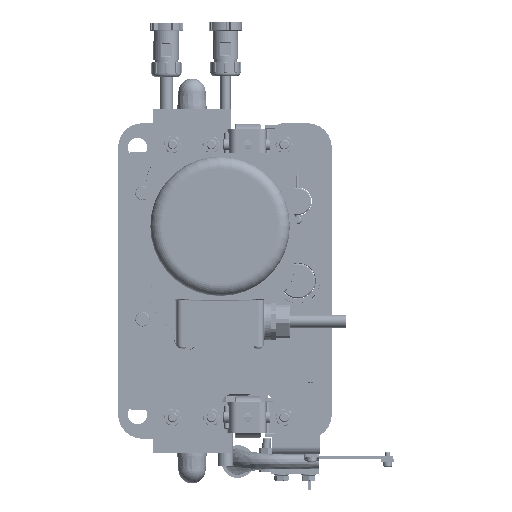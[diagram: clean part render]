
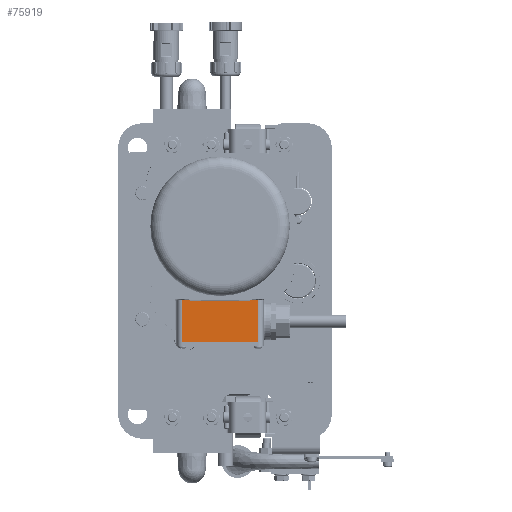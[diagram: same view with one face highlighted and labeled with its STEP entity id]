
A CAD part, left-side view. The second image highlights one B-rep face of the part: STEP entity #75919.
In plain terms, the highlighted planar face has unit normal (-1, 0, 0) as drawn and (0, 0, 1) by its records, which use the part's own axes.
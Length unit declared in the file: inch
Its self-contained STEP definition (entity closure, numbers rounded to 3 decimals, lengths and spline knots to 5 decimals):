
#3632 = CARTESIAN_POINT ( 'NONE',  ( 1.77165, 4.68504, 4.17323 ) ) ;
#5591 = VERTEX_POINT ( 'NONE', #49862 ) ;
#11944 = ORIENTED_EDGE ( 'NONE', *, *, #87141, .T. ) ;
#14134 = CARTESIAN_POINT ( 'NONE',  ( 1.77165, 4.68504, 4.17323 ) ) ;
#16587 = DIRECTION ( 'NONE',  ( 0., -1., 0. ) ) ;
#21207 = EDGE_CURVE ( 'NONE', #175193, #172982, #49257, .T. ) ;
#29665 = DIRECTION ( 'NONE',  ( 0., 0., -1. ) ) ;
#31357 = CARTESIAN_POINT ( 'NONE',  ( -1.53543, 3.0047, 4.17323 ) ) ;
#37085 = CARTESIAN_POINT ( 'NONE',  ( 1.53543, 4.68504, 4.17323 ) ) ;
#44064 = VECTOR ( 'NONE', #184271, 39.37008 ) ;
#46141 = AXIS2_PLACEMENT_3D ( 'NONE', #14134, #29665, #165643 ) ;
#48520 = DIRECTION ( 'NONE',  ( 1., -0.017, 0. ) ) ;
#49257 = LINE ( 'NONE', #3632, #138266 ) ;
#49862 = CARTESIAN_POINT ( 'NONE',  ( 1.53543, 3.0047, 4.17323 ) ) ;
#51873 = EDGE_CURVE ( 'NONE', #71904, #98848, #166829, .T. ) ;
#53510 = ORIENTED_EDGE ( 'NONE', *, *, #51873, .T. ) ;
#55351 = ORIENTED_EDGE ( 'NONE', *, *, #21207, .F. ) ;
#59427 = CARTESIAN_POINT ( 'NONE',  ( 0., 3.0315, 4.17323 ) ) ;
#62599 = ORIENTED_EDGE ( 'NONE', *, *, #73960, .T. ) ;
#71904 = VERTEX_POINT ( 'NONE', #31357 ) ;
#73960 = EDGE_CURVE ( 'NONE', #175193, #71904, #146807, .T. ) ;
#74307 = FACE_OUTER_BOUND ( 'NONE', #135105, .T. ) ;
#75919 = ADVANCED_FACE ( 'NONE', ( #74307 ), #89872, .F. ) ;
#78225 = LINE ( 'NONE', #180275, #102384 ) ;
#84934 = CARTESIAN_POINT ( 'NONE',  ( -1.53543, 4.68504, 4.17323 ) ) ;
#87141 = EDGE_CURVE ( 'NONE', #98848, #5591, #179707, .T. ) ;
#89872 = PLANE ( 'NONE',  #46141 ) ;
#98848 = VERTEX_POINT ( 'NONE', #59427 ) ;
#102384 = VECTOR ( 'NONE', #151139, 39.37008 ) ;
#103666 = ORIENTED_EDGE ( 'NONE', *, *, #115892, .T. ) ;
#115892 = EDGE_CURVE ( 'NONE', #5591, #172982, #78225, .T. ) ;
#122140 = DIRECTION ( 'NONE',  ( 1., 0., 0. ) ) ;
#126192 = VECTOR ( 'NONE', #16587, 39.37008 ) ;
#135105 = EDGE_LOOP ( 'NONE', ( #53510, #11944, #103666, #55351, #62599 ) ) ;
#138266 = VECTOR ( 'NONE', #122140, 39.37008 ) ;
#140542 = CARTESIAN_POINT ( 'NONE',  ( -0.00069, 3.03149, 4.17323 ) ) ;
#146807 = LINE ( 'NONE', #190537, #126192 ) ;
#151139 = DIRECTION ( 'NONE',  ( 0., 1., 0. ) ) ;
#159556 = VECTOR ( 'NONE', #48520, 39.37008 ) ;
#165643 = DIRECTION ( 'NONE',  ( -1., 0., 0. ) ) ;
#166829 = LINE ( 'NONE', #140542, #44064 ) ;
#172982 = VERTEX_POINT ( 'NONE', #37085 ) ;
#175193 = VERTEX_POINT ( 'NONE', #84934 ) ;
#179707 = LINE ( 'NONE', #181643, #159556 ) ;
#180275 = CARTESIAN_POINT ( 'NONE',  ( 1.53543, 4.68504, 4.17323 ) ) ;
#181643 = CARTESIAN_POINT ( 'NONE',  ( 1.74226, 3.00109, 4.17323 ) ) ;
#184271 = DIRECTION ( 'NONE',  ( 1., 0.017, 0. ) ) ;
#190537 = CARTESIAN_POINT ( 'NONE',  ( -1.53543, 4.68504, 4.17323 ) ) ;
